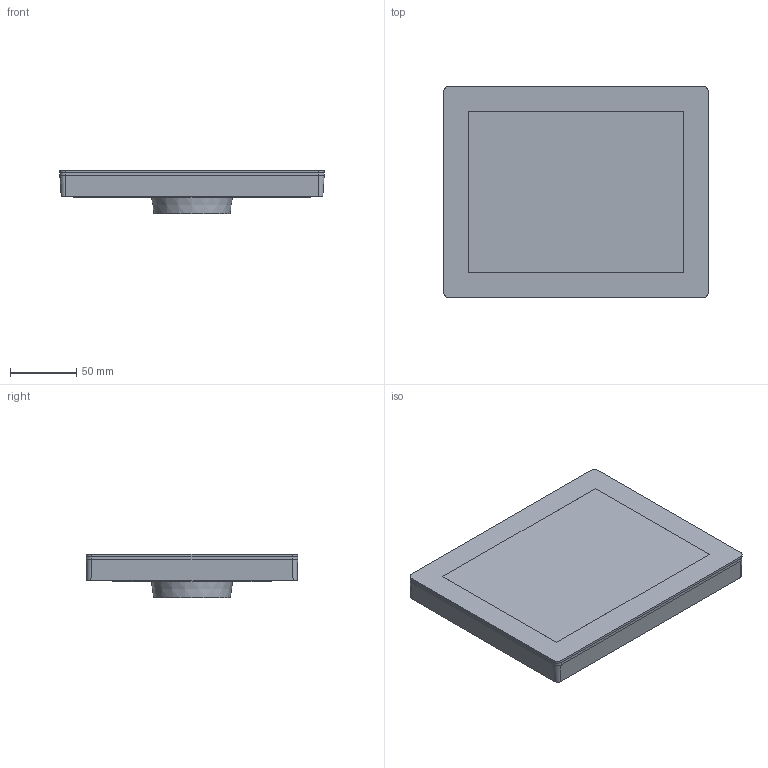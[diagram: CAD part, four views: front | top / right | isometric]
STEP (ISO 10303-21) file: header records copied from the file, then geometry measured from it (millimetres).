
FILE_DESCRIPTION(/* description */ ('STEP AP242','CAx-IF Rec.Pracs.---Representation and Presentation of Product Manufacturing Information (PMI)---4.0---2014-10-13','CAx-IF Rec.Pracs.---3D Tessellated Geometry---0.4---2014-09-14','2;1'),/* implementation_level */ '2;1');
FILE_NAME(/* name */ '6634ebc17859092b1b9c4914',/* time_stamp */ '2024-05-03T13:50:58Z',/* author */ (''),/* organization */ (''),/* preprocessor_version */ 'ST-DEVELOPER v20',/* originating_system */ ' ',/* authorisation */ ' ');
FILE_SCHEMA (('AP242_MANAGED_MODEL_BASED_3D_ENGINEERING_MIM_LF { 1 0 10303 442 1 1 4 }'));
Length unit declared in the file: metre
Products named in the file (3): Touch; Touch 8 W; UMP 5
Assembly tree (2 placements, depth 2):
  Touch
    Touch 8 W
    UMP 5
Bounding box: 200 x 160 x 32.9 mm (x, y, z)
Volume: 693675.6 mm3; surface area: 111564.4 mm2
Topology: 2 solids, 2 shells, 100 faces, 224 edges, 144 vertices
Faces by surface type: plane 60, cylinder 31, cone 5, bspline 4
Full cylindrical faces by diameter (mm): 2.5 x6, 4.5 x6, 5.1 x14, 64 x1
Entity records: 2823 total; most frequent: CARTESIAN_POINT 519, DIRECTION 466, ORIENTED_EDGE 392, EDGE_CURVE 196, EDGE_LOOP 174, FACE_BOUND 174, AXIS2_PLACEMENT_3D 171, VERTEX_POINT 144
